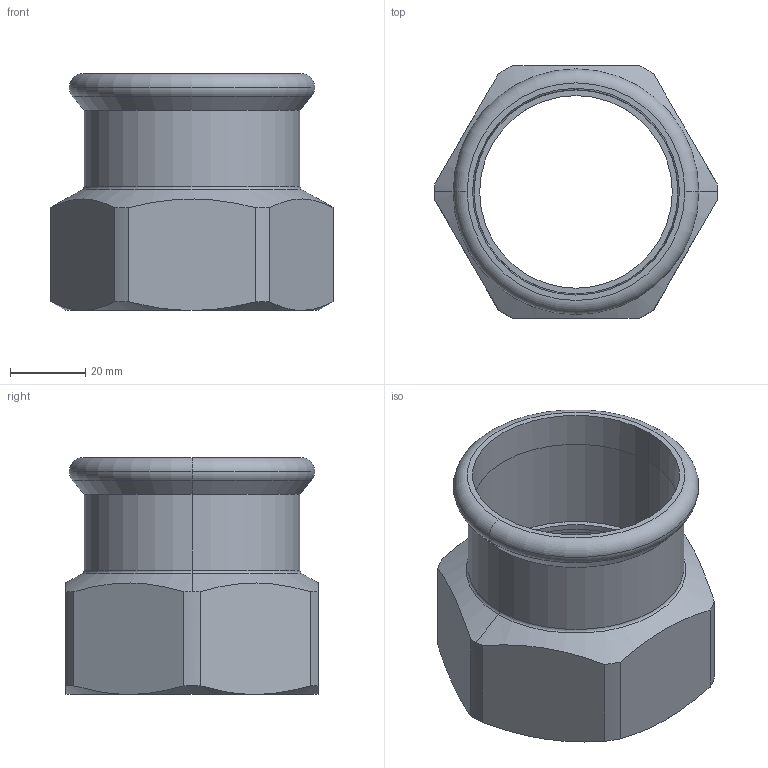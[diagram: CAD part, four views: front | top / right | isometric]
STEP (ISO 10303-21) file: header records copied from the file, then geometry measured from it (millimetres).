
FILE_DESCRIPTION(('CoCreate Modeling STEP Export'),'2;1');
FILE_NAME('C1402 54xRp2.stp','2014-11-07T14:01:52',(''),(''),'CoCreate Modeling STEP processor for AP214 (Solid Model)','CoCreate Modeling 17.00A 17-Jun-2010 (C) Parametric Technology GmbH','');
FILE_SCHEMA(('AUTOMOTIVE_DESIGN { 1 0 10303 214 1 1 1 1 }'));
Length unit declared in the file: millimetre
Products named in the file (2): C1402_54xRp2
Assembly tree (1 placements, depth 2):
  C1402_54xRp2
    C1402_54xRp2
Bounding box: 75 x 67 x 62.9 mm (x, y, z)
Volume: 52577.4 mm3; surface area: 28036.7 mm2
Topology: 1 solids, 1 shells, 57 faces, 133 edges, 81 vertices
Faces by surface type: cylinder 22, cone 18, plane 11, torus 6
Entity records: 2453 total; most frequent: CARTESIAN_POINT 1233, ORIENTED_EDGE 266, DIRECTION 212, EDGE_CURVE 133, AXIS2_PLACEMENT_3D 86, VERTEX_POINT 81, EDGE_LOOP 62, FACE_OUTER_BOUND 57
